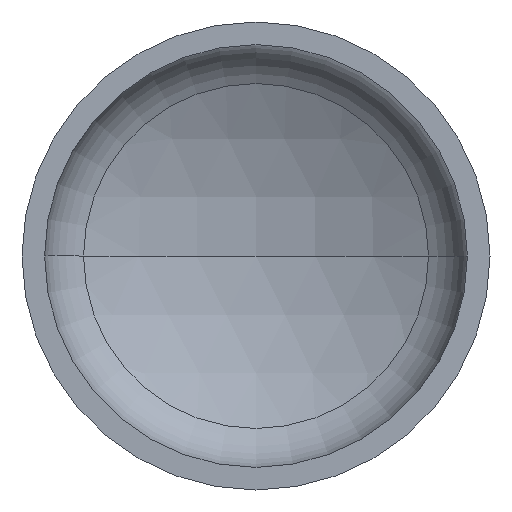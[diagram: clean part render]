
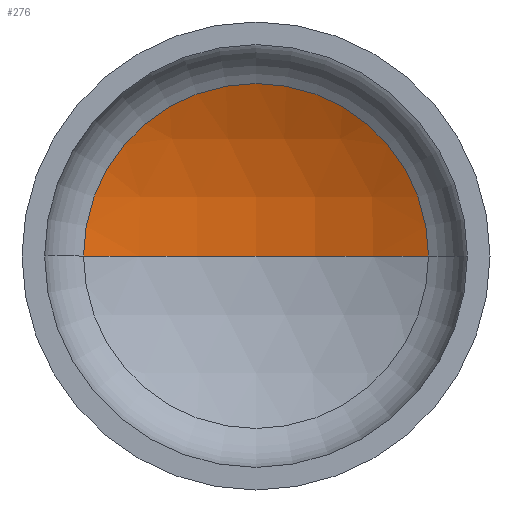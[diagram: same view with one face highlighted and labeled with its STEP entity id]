
A CAD part, front view. The second image highlights one B-rep face of the part: STEP entity #276.
In plain terms, the highlighted spherical face has radius 1920 mm.
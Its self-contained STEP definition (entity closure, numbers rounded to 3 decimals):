
#7 = DIRECTION ( 'NONE',  ( 1., 0., 0. ) ) ;
#10 = AXIS2_PLACEMENT_3D ( 'NONE', #387, #42, #397 ) ;
#16 = DIRECTION ( 'NONE',  ( 0., 0., 1. ) ) ;
#20 = CARTESIAN_POINT ( 'NONE',  ( 0., -1300.756, 0. ) ) ;
#29 = AXIS2_PLACEMENT_3D ( 'NONE', #20, #16, #7 ) ;
#30 = AXIS2_PLACEMENT_3D ( 'NONE', #150, #338, #187 ) ;
#31 = AXIS2_PLACEMENT_3D ( 'NONE', #201, #203, #168 ) ;
#42 = DIRECTION ( 'NONE',  ( 0., 0., -1. ) ) ;
#63 = EDGE_CURVE ( 'NONE', #185, #103, #374, .T. ) ;
#69 = EDGE_CURVE ( 'NONE', #216, #185, #299, .T. ) ;
#77 = EDGE_CURVE ( 'NONE', #216, #103, #160, .T. ) ;
#103 = VERTEX_POINT ( 'NONE', #248 ) ;
#112 = ORIENTED_EDGE ( 'NONE', *, *, #69, .T. ) ;
#122 = FACE_OUTER_BOUND ( 'NONE', #333, .T. ) ;
#140 = CARTESIAN_POINT ( 'NONE',  ( 0., 619.244, 0. ) ) ;
#150 = CARTESIAN_POINT ( 'NONE',  ( 0., -1300.756, 0. ) ) ;
#160 = CIRCLE ( 'NONE', #29, 1920. ) ;
#168 = DIRECTION ( 'NONE',  ( 1., 0., 0. ) ) ;
#185 = VERTEX_POINT ( 'NONE', #251 ) ;
#187 = DIRECTION ( 'NONE',  ( -1., 0., 0. ) ) ;
#201 = CARTESIAN_POINT ( 'NONE',  ( 0., 403.406, 0. ) ) ;
#203 = DIRECTION ( 'NONE',  ( 0., -1., 0. ) ) ;
#212 = ORIENTED_EDGE ( 'NONE', *, *, #77, .F. ) ;
#216 = VERTEX_POINT ( 'NONE', #140 ) ;
#226 = SPHERICAL_SURFACE ( 'NONE', #10, 1920. ) ;
#248 = CARTESIAN_POINT ( 'NONE',  ( -884.439, 403.406, 0. ) ) ;
#251 = CARTESIAN_POINT ( 'NONE',  ( 884.439, 403.406, 0. ) ) ;
#266 = ORIENTED_EDGE ( 'NONE', *, *, #63, .T. ) ;
#276 = ADVANCED_FACE ( 'NONE', ( #122 ), #226, .F. ) ;
#299 = CIRCLE ( 'NONE', #30, 1920. ) ;
#333 = EDGE_LOOP ( 'NONE', ( #212, #112, #266 ) ) ;
#338 = DIRECTION ( 'NONE',  ( 0., 0., -1. ) ) ;
#374 = CIRCLE ( 'NONE', #31, 884.439 ) ;
#387 = CARTESIAN_POINT ( 'NONE',  ( 0., -1300.756, 0. ) ) ;
#397 = DIRECTION ( 'NONE',  ( -1., 0., 0. ) ) ;
